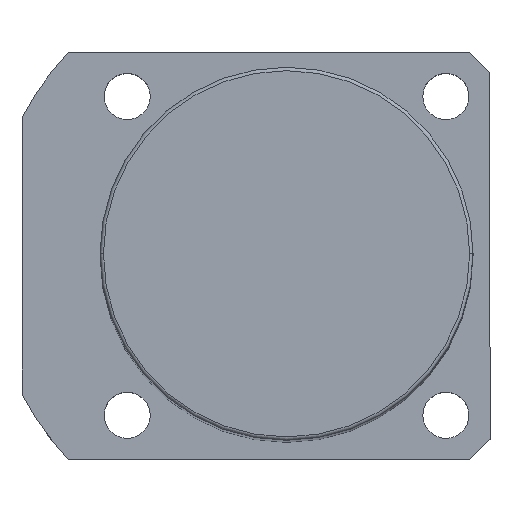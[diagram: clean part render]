
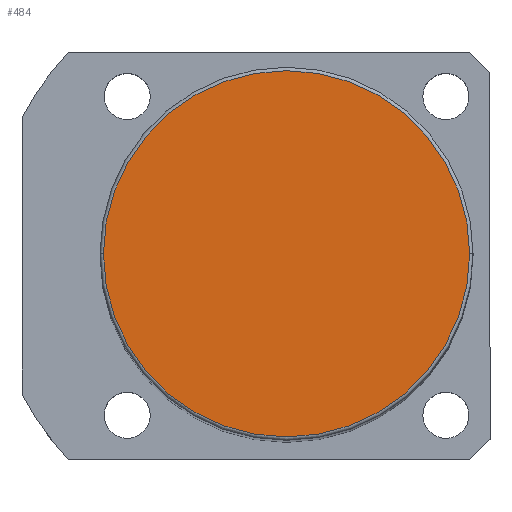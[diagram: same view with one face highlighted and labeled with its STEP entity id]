
A CAD part, top view. The second image highlights one B-rep face of the part: STEP entity #484.
In plain terms, the highlighted planar face has unit normal (0, 0, 1).
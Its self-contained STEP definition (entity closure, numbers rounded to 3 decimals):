
#75 = DIRECTION ( 'NONE',  ( 0., 0., 1. ) ) ;
#78 = AXIS2_PLACEMENT_3D ( 'NONE', #813, #960, #1648 ) ;
#182 = CARTESIAN_POINT ( 'NONE',  ( 0., 0., 186. ) ) ;
#221 = VERTEX_POINT ( 'NONE', #561 ) ;
#246 = ORIENTED_EDGE ( 'NONE', *, *, #1581, .T. ) ;
#477 = DIRECTION ( 'NONE',  ( 1., 0., 0. ) ) ;
#484 = ADVANCED_FACE ( 'NONE', ( #755 ), #1739, .T. ) ;
#556 = EDGE_LOOP ( 'NONE', ( #246, #1364 ) ) ;
#561 = CARTESIAN_POINT ( 'NONE',  ( 27., 0., 186. ) ) ;
#738 = AXIS2_PLACEMENT_3D ( 'NONE', #1042, #75, #785 ) ;
#755 = FACE_OUTER_BOUND ( 'NONE', #556, .T. ) ;
#785 = DIRECTION ( 'NONE',  ( 1., 0., 0. ) ) ;
#813 = CARTESIAN_POINT ( 'NONE',  ( 0., 0., 186. ) ) ;
#869 = CARTESIAN_POINT ( 'NONE',  ( -27., 0., 186. ) ) ;
#960 = DIRECTION ( 'NONE',  ( 0., 0., 1. ) ) ;
#1042 = CARTESIAN_POINT ( 'NONE',  ( 0., 0., 186. ) ) ;
#1061 = CIRCLE ( 'NONE', #1799, 27. ) ;
#1258 = EDGE_CURVE ( 'NONE', #1778, #221, #1061, .T. ) ;
#1364 = ORIENTED_EDGE ( 'NONE', *, *, #1258, .T. ) ;
#1581 = EDGE_CURVE ( 'NONE', #221, #1778, #1757, .T. ) ;
#1648 = DIRECTION ( 'NONE',  ( 1., 0., 0. ) ) ;
#1712 = DIRECTION ( 'NONE',  ( 0., 0., 1. ) ) ;
#1739 = PLANE ( 'NONE',  #738 ) ;
#1757 = CIRCLE ( 'NONE', #78, 27. ) ;
#1778 = VERTEX_POINT ( 'NONE', #869 ) ;
#1799 = AXIS2_PLACEMENT_3D ( 'NONE', #182, #1712, #477 ) ;
